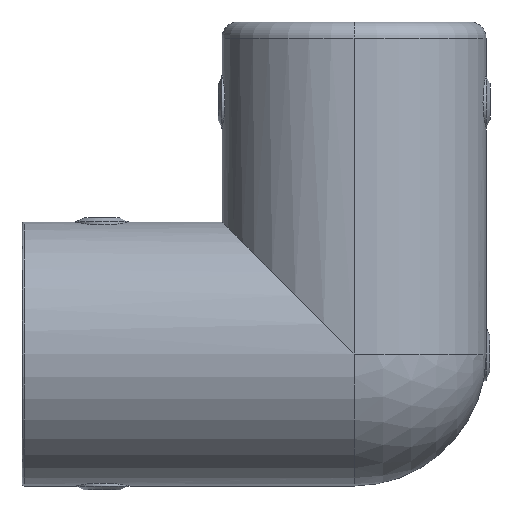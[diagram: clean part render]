
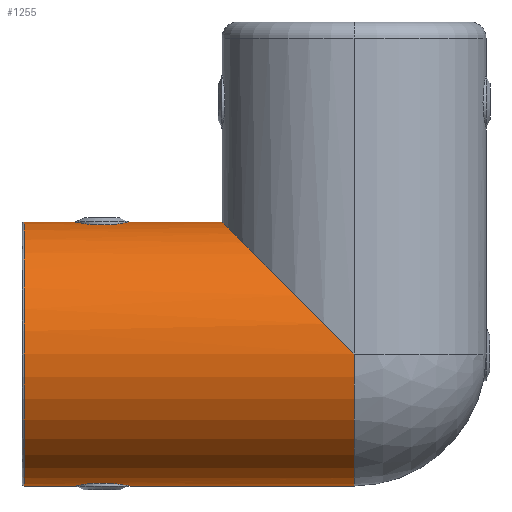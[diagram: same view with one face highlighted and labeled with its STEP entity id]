
A CAD part, front view. The second image highlights one B-rep face of the part: STEP entity #1255.
In plain terms, the highlighted cylindrical face has radius 33 mm (diameter 66 mm), a full revolution.
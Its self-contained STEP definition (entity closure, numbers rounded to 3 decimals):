
#57=ELLIPSE('',#1482,46.669,33.);
#58=ELLIPSE('',#1483,46.669,33.);
#126=LINE('',#2211,#207);
#127=LINE('',#2233,#208);
#207=VECTOR('',#1697,33.);
#208=VECTOR('',#1698,33.);
#280=B_SPLINE_CURVE_WITH_KNOTS('',3,(#2213,#2214,#2215,#2216,#2217,#2218,
#2219,#2220,#2221,#2222,#2223,#2224,#2225,#2226,#2227,#2228,#2229,#2230,
#2231),.UNSPECIFIED.,.F.,.F.,(4,2,2,2,3,2,2,2,4),(3.175,3.439,
3.704,3.968,4.233,4.497,4.762,
5.026,5.291),.UNSPECIFIED.);
#281=B_SPLINE_CURVE_WITH_KNOTS('',3,(#2239,#2240,#2241,#2242,#2243,#2244,
#2245,#2246,#2247,#2248,#2249,#2250,#2251,#2252,#2253,#2254,#2255,#2256),
 .UNSPECIFIED.,.F.,.F.,(4,2,2,2,2,2,2,2,4),(1.058,1.323,
1.587,1.852,2.116,2.381,2.645,
2.91,3.175),.UNSPECIFIED.);
#282=B_SPLINE_CURVE_WITH_KNOTS('',3,(#2259,#2260,#2261,#2262,#2263,#2264,
#2265,#2266,#2267,#2268,#2269,#2270,#2271,#2272,#2273,#2274,#2275,#2276),
 .UNSPECIFIED.,.F.,.F.,(4,2,2,2,2,2,2,2,4),(1.058,1.323,
1.587,1.852,2.116,2.381,2.645,
2.91,3.175),.UNSPECIFIED.);
#283=B_SPLINE_CURVE_WITH_KNOTS('',3,(#2277,#2278,#2279,#2280,#2281,#2282,
#2283,#2284,#2285,#2286,#2287,#2288,#2289,#2290,#2291,#2292,#2293,#2294,
#2295),.UNSPECIFIED.,.F.,.F.,(4,2,2,2,3,2,2,2,4),(3.175,3.439,
3.704,3.968,4.233,4.497,4.762,
5.026,5.291),.UNSPECIFIED.);
#303=CYLINDRICAL_SURFACE('',#1480,33.);
#326=FACE_BOUND('',#440,.T.);
#361=FACE_OUTER_BOUND('',#439,.T.);
#439=EDGE_LOOP('',(#953,#954,#955,#956,#957,#958,#959,#960,#961,#962,#963));
#440=EDGE_LOOP('',(#964,#965));
#530=CIRCLE('',#1478,33.);
#531=CIRCLE('',#1479,33.);
#532=CIRCLE('',#1481,33.);
#601=VERTEX_POINT('',#2204);
#602=VERTEX_POINT('',#2206);
#603=VERTEX_POINT('',#2210);
#604=VERTEX_POINT('',#2212);
#605=VERTEX_POINT('',#2232);
#606=VERTEX_POINT('',#2234);
#607=VERTEX_POINT('',#2236);
#608=VERTEX_POINT('',#2257);
#609=VERTEX_POINT('',#2258);
#732=EDGE_CURVE('',#601,#602,#530,.T.);
#733=EDGE_CURVE('',#602,#601,#531,.T.);
#734=EDGE_CURVE('',#602,#603,#126,.T.);
#735=EDGE_CURVE('',#603,#604,#280,.T.);
#736=EDGE_CURVE('',#604,#605,#127,.T.);
#737=EDGE_CURVE('',#606,#605,#532,.T.);
#738=EDGE_CURVE('',#606,#607,#57,.T.);
#739=EDGE_CURVE('',#607,#605,#58,.T.);
#740=EDGE_CURVE('',#604,#603,#281,.T.);
#741=EDGE_CURVE('',#608,#609,#282,.T.);
#742=EDGE_CURVE('',#609,#608,#283,.T.);
#953=ORIENTED_EDGE('',*,*,#733,.F.);
#954=ORIENTED_EDGE('',*,*,#734,.T.);
#955=ORIENTED_EDGE('',*,*,#735,.T.);
#956=ORIENTED_EDGE('',*,*,#736,.T.);
#957=ORIENTED_EDGE('',*,*,#737,.F.);
#958=ORIENTED_EDGE('',*,*,#738,.T.);
#959=ORIENTED_EDGE('',*,*,#739,.T.);
#960=ORIENTED_EDGE('',*,*,#736,.F.);
#961=ORIENTED_EDGE('',*,*,#740,.T.);
#962=ORIENTED_EDGE('',*,*,#734,.F.);
#963=ORIENTED_EDGE('',*,*,#732,.F.);
#964=ORIENTED_EDGE('',*,*,#741,.T.);
#965=ORIENTED_EDGE('',*,*,#742,.T.);
#1255=ADVANCED_FACE('',(#361,#326),#303,.T.);
#1478=AXIS2_PLACEMENT_3D('',#2207,#1691,#1692);
#1479=AXIS2_PLACEMENT_3D('',#2208,#1693,#1694);
#1480=AXIS2_PLACEMENT_3D('',#2209,#1695,#1696);
#1481=AXIS2_PLACEMENT_3D('',#2235,#1699,#1700);
#1482=AXIS2_PLACEMENT_3D('',#2237,#1701,#1702);
#1483=AXIS2_PLACEMENT_3D('',#2238,#1703,#1704);
#1691=DIRECTION('center_axis',(1.,0.,0.));
#1692=DIRECTION('ref_axis',(0.,-1.,0.));
#1693=DIRECTION('center_axis',(1.,0.,0.));
#1694=DIRECTION('ref_axis',(0.,-1.,0.));
#1695=DIRECTION('center_axis',(1.,0.,0.));
#1696=DIRECTION('ref_axis',(0.,1.,0.));
#1697=DIRECTION('',(-1.,0.,0.));
#1698=DIRECTION('',(-1.,0.,0.));
#1699=DIRECTION('center_axis',(-1.,0.,0.));
#1700=DIRECTION('ref_axis',(0.,1.,0.));
#1701=DIRECTION('center_axis',(0.707,-0.707,0.));
#1702=DIRECTION('ref_axis',(-0.707,-0.707,0.));
#1703=DIRECTION('center_axis',(0.707,0.,-0.707));
#1704=DIRECTION('ref_axis',(0.707,0.,0.707));
#2204=CARTESIAN_POINT('',(82.5,0.,33.));
#2206=CARTESIAN_POINT('',(82.5,-33.,0.));
#2207=CARTESIAN_POINT('Origin',(82.5,0.,0.));
#2208=CARTESIAN_POINT('Origin',(82.5,0.,0.));
#2209=CARTESIAN_POINT('Origin',(0.,0.,0.));
#2210=CARTESIAN_POINT('',(70.,-33.,0.));
#2211=CARTESIAN_POINT('',(0.,-33.,0.));
#2212=CARTESIAN_POINT('',(56.,-33.,0.));
#2213=CARTESIAN_POINT('Ctrl Pts',(70.,-33.,0.));
#2214=CARTESIAN_POINT('Ctrl Pts',(70.,-33.,-0.882));
#2215=CARTESIAN_POINT('Ctrl Pts',(69.823,-32.961,-1.821));
#2216=CARTESIAN_POINT('Ctrl Pts',(69.108,-32.82,-3.544));
#2217=CARTESIAN_POINT('Ctrl Pts',(68.57,-32.721,-4.33));
#2218=CARTESIAN_POINT('Ctrl Pts',(67.33,-32.533,-5.57));
#2219=CARTESIAN_POINT('Ctrl Pts',(66.544,-32.432,-6.108));
#2220=CARTESIAN_POINT('Ctrl Pts',(64.821,-32.289,-6.823));
#2221=CARTESIAN_POINT('Ctrl Pts',(63.882,-32.249,-7.));
#2222=CARTESIAN_POINT('Ctrl Pts',(63.,-32.249,-7.));
#2223=CARTESIAN_POINT('Ctrl Pts',(62.118,-32.249,-7.));
#2224=CARTESIAN_POINT('Ctrl Pts',(61.179,-32.289,-6.823));
#2225=CARTESIAN_POINT('Ctrl Pts',(59.456,-32.432,-6.108));
#2226=CARTESIAN_POINT('Ctrl Pts',(58.67,-32.533,-5.57));
#2227=CARTESIAN_POINT('Ctrl Pts',(57.43,-32.721,-4.33));
#2228=CARTESIAN_POINT('Ctrl Pts',(56.892,-32.82,-3.544));
#2229=CARTESIAN_POINT('Ctrl Pts',(56.177,-32.961,-1.821));
#2230=CARTESIAN_POINT('Ctrl Pts',(56.,-33.,-0.882));
#2231=CARTESIAN_POINT('Ctrl Pts',(56.,-33.,0.));
#2232=CARTESIAN_POINT('',(0.,-33.,0.));
#2233=CARTESIAN_POINT('',(0.,-33.,0.));
#2234=CARTESIAN_POINT('',(0.,0.,-33.));
#2235=CARTESIAN_POINT('Origin',(0.,0.,0.));
#2236=CARTESIAN_POINT('',(23.335,23.335,23.335));
#2237=CARTESIAN_POINT('Origin',(0.,0.,0.));
#2238=CARTESIAN_POINT('Origin',(0.,0.,0.));
#2239=CARTESIAN_POINT('Ctrl Pts',(56.,-33.,0.));
#2240=CARTESIAN_POINT('Ctrl Pts',(56.,-33.,0.882));
#2241=CARTESIAN_POINT('Ctrl Pts',(56.177,-32.961,1.821));
#2242=CARTESIAN_POINT('Ctrl Pts',(56.892,-32.82,3.544));
#2243=CARTESIAN_POINT('Ctrl Pts',(57.43,-32.721,4.33));
#2244=CARTESIAN_POINT('Ctrl Pts',(58.67,-32.533,5.57));
#2245=CARTESIAN_POINT('Ctrl Pts',(59.456,-32.432,6.108));
#2246=CARTESIAN_POINT('Ctrl Pts',(61.179,-32.289,6.823));
#2247=CARTESIAN_POINT('Ctrl Pts',(62.118,-32.249,7.));
#2248=CARTESIAN_POINT('Ctrl Pts',(63.882,-32.249,7.));
#2249=CARTESIAN_POINT('Ctrl Pts',(64.821,-32.289,6.823));
#2250=CARTESIAN_POINT('Ctrl Pts',(66.544,-32.432,6.108));
#2251=CARTESIAN_POINT('Ctrl Pts',(67.33,-32.533,5.57));
#2252=CARTESIAN_POINT('Ctrl Pts',(68.57,-32.721,4.33));
#2253=CARTESIAN_POINT('Ctrl Pts',(69.108,-32.82,3.544));
#2254=CARTESIAN_POINT('Ctrl Pts',(69.823,-32.961,1.821));
#2255=CARTESIAN_POINT('Ctrl Pts',(70.,-33.,0.882));
#2256=CARTESIAN_POINT('Ctrl Pts',(70.,-33.,0.));
#2257=CARTESIAN_POINT('',(70.,33.,0.));
#2258=CARTESIAN_POINT('',(56.,33.,0.));
#2259=CARTESIAN_POINT('Ctrl Pts',(70.,33.,0.));
#2260=CARTESIAN_POINT('Ctrl Pts',(70.,33.,0.882));
#2261=CARTESIAN_POINT('Ctrl Pts',(69.823,32.961,1.821));
#2262=CARTESIAN_POINT('Ctrl Pts',(69.108,32.82,3.544));
#2263=CARTESIAN_POINT('Ctrl Pts',(68.57,32.721,4.33));
#2264=CARTESIAN_POINT('Ctrl Pts',(67.33,32.533,5.57));
#2265=CARTESIAN_POINT('Ctrl Pts',(66.544,32.432,6.108));
#2266=CARTESIAN_POINT('Ctrl Pts',(64.821,32.289,6.823));
#2267=CARTESIAN_POINT('Ctrl Pts',(63.882,32.249,7.));
#2268=CARTESIAN_POINT('Ctrl Pts',(62.118,32.249,7.));
#2269=CARTESIAN_POINT('Ctrl Pts',(61.179,32.289,6.823));
#2270=CARTESIAN_POINT('Ctrl Pts',(59.456,32.432,6.108));
#2271=CARTESIAN_POINT('Ctrl Pts',(58.67,32.533,5.57));
#2272=CARTESIAN_POINT('Ctrl Pts',(57.43,32.721,4.33));
#2273=CARTESIAN_POINT('Ctrl Pts',(56.892,32.82,3.544));
#2274=CARTESIAN_POINT('Ctrl Pts',(56.177,32.961,1.821));
#2275=CARTESIAN_POINT('Ctrl Pts',(56.,33.,0.882));
#2276=CARTESIAN_POINT('Ctrl Pts',(56.,33.,0.));
#2277=CARTESIAN_POINT('Ctrl Pts',(56.,33.,0.));
#2278=CARTESIAN_POINT('Ctrl Pts',(56.,33.,-0.882));
#2279=CARTESIAN_POINT('Ctrl Pts',(56.177,32.961,-1.821));
#2280=CARTESIAN_POINT('Ctrl Pts',(56.892,32.82,-3.544));
#2281=CARTESIAN_POINT('Ctrl Pts',(57.43,32.721,-4.33));
#2282=CARTESIAN_POINT('Ctrl Pts',(58.67,32.533,-5.57));
#2283=CARTESIAN_POINT('Ctrl Pts',(59.456,32.432,-6.108));
#2284=CARTESIAN_POINT('Ctrl Pts',(61.179,32.289,-6.823));
#2285=CARTESIAN_POINT('Ctrl Pts',(62.118,32.249,-7.));
#2286=CARTESIAN_POINT('Ctrl Pts',(63.,32.249,-7.));
#2287=CARTESIAN_POINT('Ctrl Pts',(63.882,32.249,-7.));
#2288=CARTESIAN_POINT('Ctrl Pts',(64.821,32.289,-6.823));
#2289=CARTESIAN_POINT('Ctrl Pts',(66.544,32.432,-6.108));
#2290=CARTESIAN_POINT('Ctrl Pts',(67.33,32.533,-5.57));
#2291=CARTESIAN_POINT('Ctrl Pts',(68.57,32.721,-4.33));
#2292=CARTESIAN_POINT('Ctrl Pts',(69.108,32.82,-3.544));
#2293=CARTESIAN_POINT('Ctrl Pts',(69.823,32.961,-1.821));
#2294=CARTESIAN_POINT('Ctrl Pts',(70.,33.,-0.882));
#2295=CARTESIAN_POINT('Ctrl Pts',(70.,33.,0.));
